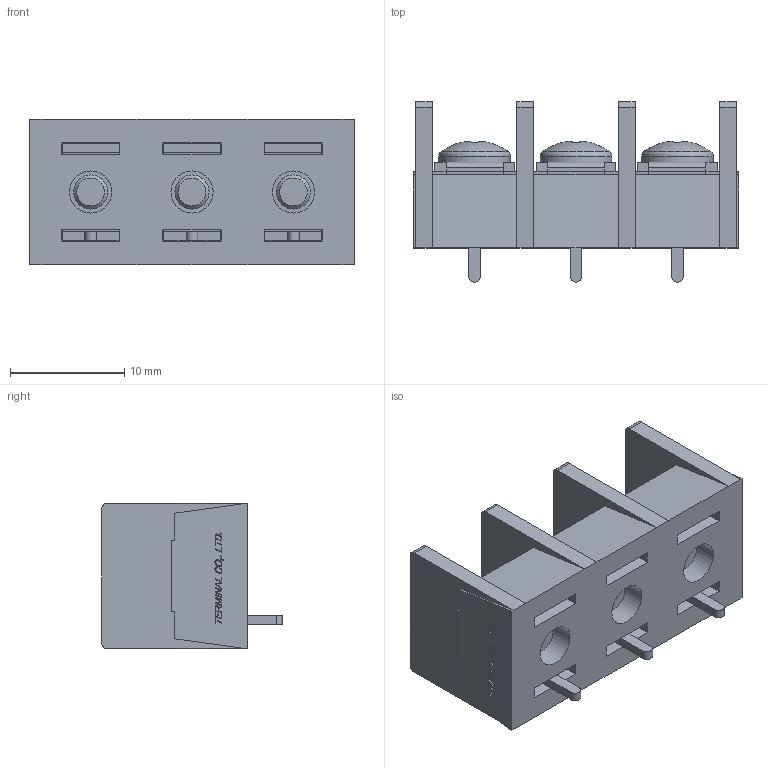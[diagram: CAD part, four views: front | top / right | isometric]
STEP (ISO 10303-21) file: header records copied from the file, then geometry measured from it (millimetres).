
FILE_DESCRIPTION(/* description */ ('Alibre Inc.'),/* implementation_level */ '2;1');
FILE_NAME(/* name */ 'export0',/* time_stamp */ '2015-10-20T19:39:04+09:00',/* author */ (''),/* organization */ (''),/* preprocessor_version */ 'ST-DEVELOPER v14',/* originating_system */ 'Alibre',/* authorisation */ '');
FILE_SCHEMA (('CONFIG_CONTROL_DESIGN'));
Length unit declared in the file: centimetre
Products named in the file (1): ID_1
Bounding box: 28.58 x 15.8 x 12.8 mm (x, y, z)
Volume: 2717.7 mm3; surface area: 3437.5 mm2
Topology: 1 solids, 52 shells, 1233 faces, 3191 edges, 2114 vertices
Faces by surface type: plane 917, bspline 260, cylinder 32, cone 15, torus 6, sphere 3
Full cylindrical faces by diameter (mm): 3 x6, 3.7 x3, 4.6 x3, 6.3 x3
Entity records: 35898 total; most frequent: CARTESIAN_POINT 8810, ORIENTED_EDGE 6316, DIRECTION 3658, EDGE_CURVE 3158, VECTOR 2449, LINE 2449, VERTEX_POINT 2105, EDGE_LOOP 1351
